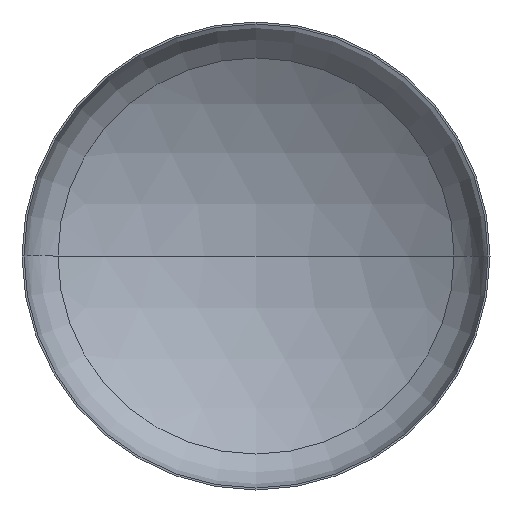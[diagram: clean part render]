
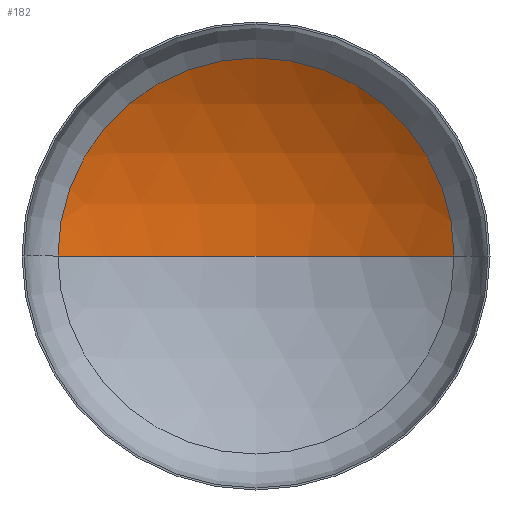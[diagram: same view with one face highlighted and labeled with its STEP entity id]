
A CAD part, front view. The second image highlights one B-rep face of the part: STEP entity #182.
In plain terms, the highlighted spherical face has radius 1920 mm.
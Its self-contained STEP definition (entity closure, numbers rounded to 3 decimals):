
#1 = DIRECTION ( 'NONE',  ( 1., 0., 0. ) ) ;
#6 = ORIENTED_EDGE ( 'NONE', *, *, #367, .F. ) ;
#7 = ORIENTED_EDGE ( 'NONE', *, *, #388, .T. ) ;
#15 = AXIS2_PLACEMENT_3D ( 'NONE', #151, #130, #147 ) ;
#16 = EDGE_LOOP ( 'NONE', ( #6, #7, #179 ) ) ;
#17 = CARTESIAN_POINT ( 'NONE',  ( 0., -1285.333, 0. ) ) ;
#24 = AXIS2_PLACEMENT_3D ( 'NONE', #396, #250, #1 ) ;
#33 = VERTEX_POINT ( 'NONE', #261 ) ;
#67 = AXIS2_PLACEMENT_3D ( 'NONE', #229, #197, #214 ) ;
#85 = VERTEX_POINT ( 'NONE', #259 ) ;
#91 = CIRCLE ( 'NONE', #24, 1015.742 ) ;
#130 = DIRECTION ( 'NONE',  ( 0., 0., 1. ) ) ;
#138 = DIRECTION ( 'NONE',  ( -1., 0., 0. ) ) ;
#147 = DIRECTION ( 'NONE',  ( 1., 0., 0. ) ) ;
#151 = CARTESIAN_POINT ( 'NONE',  ( 0., -1285.333, 0. ) ) ;
#152 = CARTESIAN_POINT ( 'NONE',  ( 0., 634.667, 0. ) ) ;
#163 = CIRCLE ( 'NONE', #196, 1920. ) ;
#179 = ORIENTED_EDGE ( 'NONE', *, *, #344, .T. ) ;
#182 = ADVANCED_FACE ( 'NONE', ( #217 ), #405, .F. ) ;
#196 = AXIS2_PLACEMENT_3D ( 'NONE', #17, #276, #138 ) ;
#197 = DIRECTION ( 'NONE',  ( 0., 0., -1. ) ) ;
#214 = DIRECTION ( 'NONE',  ( -1., 0., 0. ) ) ;
#217 = FACE_OUTER_BOUND ( 'NONE', #16, .T. ) ;
#229 = CARTESIAN_POINT ( 'NONE',  ( 0., -1285.333, 0. ) ) ;
#246 = VERTEX_POINT ( 'NONE', #152 ) ;
#250 = DIRECTION ( 'NONE',  ( 0., -1., 0. ) ) ;
#259 = CARTESIAN_POINT ( 'NONE',  ( -1015.742, 343.983, 0. ) ) ;
#261 = CARTESIAN_POINT ( 'NONE',  ( 1015.742, 343.983, 0. ) ) ;
#276 = DIRECTION ( 'NONE',  ( 0., 0., -1. ) ) ;
#293 = CIRCLE ( 'NONE', #15, 1920. ) ;
#344 = EDGE_CURVE ( 'NONE', #33, #85, #91, .T. ) ;
#367 = EDGE_CURVE ( 'NONE', #246, #85, #293, .T. ) ;
#388 = EDGE_CURVE ( 'NONE', #246, #33, #163, .T. ) ;
#396 = CARTESIAN_POINT ( 'NONE',  ( 0., 343.983, 0. ) ) ;
#405 = SPHERICAL_SURFACE ( 'NONE', #67, 1920. ) ;
